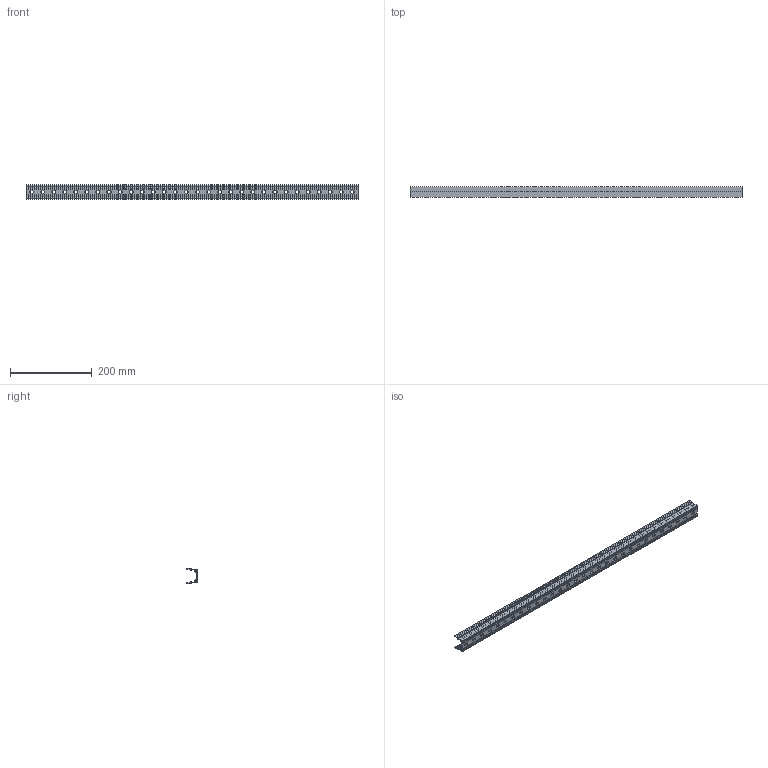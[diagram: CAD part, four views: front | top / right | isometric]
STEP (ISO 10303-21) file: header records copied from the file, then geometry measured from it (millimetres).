
FILE_DESCRIPTION( ( 'STEP AP203' ), '1' );
FILE_NAME( 'C:/Temp/Ganter_Step_05_03_2020/data/3_8/gn_646_3/Carrier profile GN 646.3-810-B (15).stp', '2020-03-12T15:24:25', ( 'License CC BY-ND 4.0' ), ( 'CADENAS' ), ' ', 'PARTsolutions', ' ' );
FILE_SCHEMA( ( 'CONFIG_CONTROL_DESIGN' ) );
Length unit declared in the file: millimetre
Products named in the file (1): _Carrier profile GN 646.3-810-B (15)
Bounding box: 810 x 26.5 x 36 mm (x, y, z)
Volume: 133562.8 mm3; surface area: 168966.3 mm2
Topology: 1 solids, 1 shells, 232 faces, 690 edges, 460 vertices
Faces by surface type: plane 130, cylinder 102
Entity records: 7982 total; most frequent: CARTESIAN_POINT 1383, ORIENTED_EDGE 1380, DIRECTION 1360, EDGE_CURVE 690, LINE 486, VECTOR 486, VERTEX_POINT 460, AXIS2_PLACEMENT_3D 437
